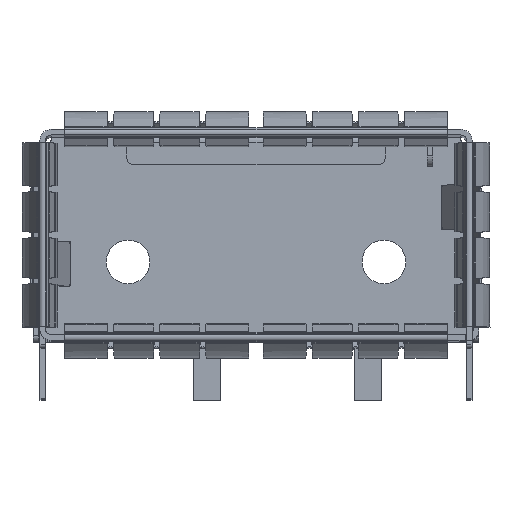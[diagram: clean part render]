
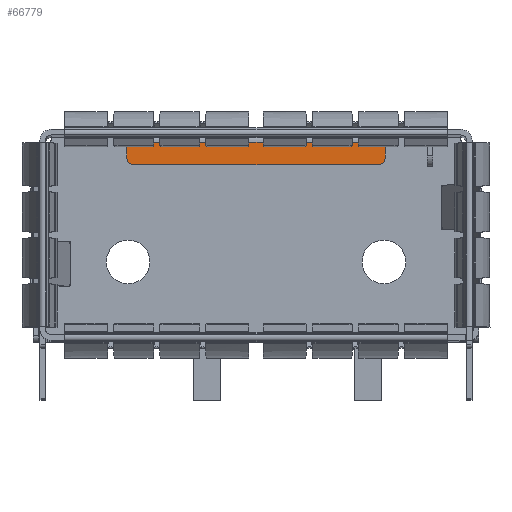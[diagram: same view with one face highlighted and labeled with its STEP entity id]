
A CAD part, top view. The second image highlights one B-rep face of the part: STEP entity #66779.
In plain terms, the highlighted planar face has unit normal (0, 0, 1).
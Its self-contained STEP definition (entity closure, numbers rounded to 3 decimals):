
#23300=DIRECTION('',(0.,-1.,0.));
#23301=VECTOR('',#23300,0.7);
#23302=CARTESIAN_POINT('',(-18.544,11.251,
-48.23));
#23303=LINE('',#23302,#23301);
#23313=DIRECTION('',(-1.,0.,0.));
#23314=VECTOR('',#23313,11.5);
#23315=CARTESIAN_POINT('',(-7.044,11.251,
-48.23));
#23316=LINE('',#23315,#23314);
#23327=DIRECTION('',(0.,1.,0.));
#23328=VECTOR('',#23327,0.7);
#23329=CARTESIAN_POINT('',(-7.044,10.551,
-48.23));
#23330=LINE('',#23329,#23328);
#23377=CARTESIAN_POINT('',(-18.244,10.551,
-48.23));
#23378=DIRECTION('',(0.,0.,-1.));
#23379=DIRECTION('',(0.,-1.,0.));
#23380=AXIS2_PLACEMENT_3D('',#23377,#23378,#23379);
#23382=CARTESIAN_POINT('',(-7.344,10.551,
-48.23));
#23383=DIRECTION('',(0.,0.,-1.));
#23384=DIRECTION('',(1.,0.,0.));
#23385=AXIS2_PLACEMENT_3D('',#23382,#23383,#23384);
#23387=DIRECTION('',(1.,0.,0.));
#23388=VECTOR('',#23387,10.9);
#23389=CARTESIAN_POINT('',(-18.244,10.251,
-48.23));
#23390=LINE('',#23389,#23388);
#31502=CARTESIAN_POINT('',(-7.044,11.251,
-48.23));
#31503=VERTEX_POINT('',#31502);
#31508=CARTESIAN_POINT('',(-7.044,10.551,
-48.23));
#31509=VERTEX_POINT('',#31508);
#31510=CARTESIAN_POINT('',(-18.544,11.251,
-48.23));
#31511=VERTEX_POINT('',#31510);
#31512=CARTESIAN_POINT('',(-18.244,10.251,
-48.23));
#31513=CARTESIAN_POINT('',(-7.344,10.251,
-48.23));
#31514=VERTEX_POINT('',#31512);
#31515=VERTEX_POINT('',#31513);
#31516=CARTESIAN_POINT('',(-18.544,10.551,
-48.23));
#31517=VERTEX_POINT('',#31516);
#66764=CARTESIAN_POINT('',(-18.544,11.251,
-48.23));
#66765=DIRECTION('',(0.,0.,1.));
#66766=DIRECTION('',(1.,0.,0.));
#66767=AXIS2_PLACEMENT_3D('',#66764,#66765,#66766);
#66768=PLANE('',#66767);
#66770=ORIENTED_EDGE('',*,*,#66769,.F.);
#66771=ORIENTED_EDGE('',*,*,#66756,.T.);
#66772=ORIENTED_EDGE('',*,*,#66648,.F.);
#66773=ORIENTED_EDGE('',*,*,#66668,.F.);
#66774=ORIENTED_EDGE('',*,*,#66688,.F.);
#66776=ORIENTED_EDGE('',*,*,#66775,.T.);
#66777=EDGE_LOOP('',(#66770,#66771,#66772,#66773,#66774,#66776));
#66778=FACE_OUTER_BOUND('',#66777,.F.);
#66779=ADVANCED_FACE('',(#66778),#66768,.T.);
#23381=CIRCLE('',#23380,0.3);
#23386=CIRCLE('',#23385,0.3);
#66648=EDGE_CURVE('',#31511,#31517,#23303,.T.);
#66668=EDGE_CURVE('',#31503,#31511,#23316,.T.);
#66688=EDGE_CURVE('',#31509,#31503,#23330,.T.);
#66756=EDGE_CURVE('',#31514,#31517,#23381,.T.);
#66769=EDGE_CURVE('',#31514,#31515,#23390,.T.);
#66775=EDGE_CURVE('',#31509,#31515,#23386,.T.);
